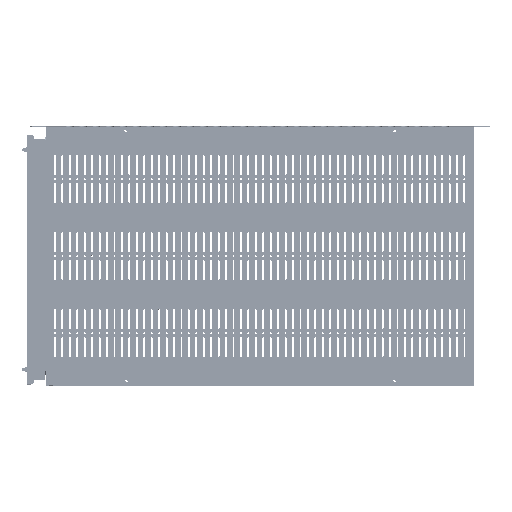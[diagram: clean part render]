
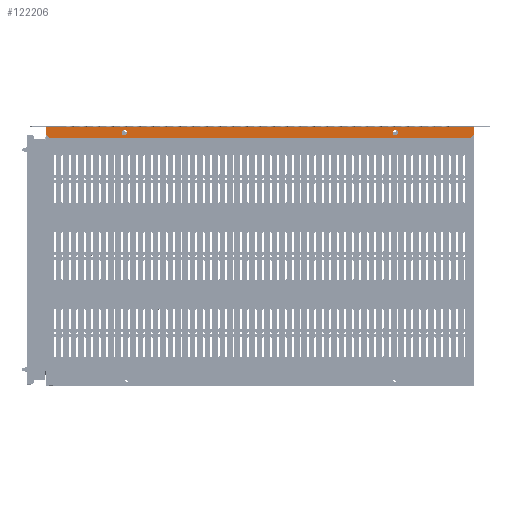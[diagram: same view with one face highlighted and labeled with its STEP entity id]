
A CAD part, top view. The second image highlights one B-rep face of the part: STEP entity #122206.
In plain terms, the highlighted planar face has unit normal (0, 0, 1).
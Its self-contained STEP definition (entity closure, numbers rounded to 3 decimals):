
#2790 = CARTESIAN_POINT ( 'NONE',  ( 287., 1.15, 0. ) ) ;
#2939 = EDGE_CURVE ( 'NONE', #46076, #76286, #125767, .T. ) ;
#3232 = EDGE_LOOP ( 'NONE', ( #54774, #107606 ) ) ;
#6422 = DIRECTION ( 'NONE',  ( -0.707, -0.707, 0. ) ) ;
#6667 = EDGE_CURVE ( 'NONE', #78309, #55650, #75707, .T. ) ;
#7466 = DIRECTION ( 'NONE',  ( -1., 0., 0. ) ) ;
#8405 = FACE_BOUND ( 'NONE', #3232, .T. ) ;
#11672 = VECTOR ( 'NONE', #81668, 1000. ) ;
#12498 = EDGE_CURVE ( 'NONE', #95457, #20290, #15569, .T. ) ;
#13432 = CARTESIAN_POINT ( 'NONE',  ( -182., 8.325, 0. ) ) ;
#14967 = ORIENTED_EDGE ( 'NONE', *, *, #66352, .F. ) ;
#15569 = CIRCLE ( 'NONE', #91003, 3.6 ) ;
#15599 = ORIENTED_EDGE ( 'NONE', *, *, #97734, .T. ) ;
#16406 = CARTESIAN_POINT ( 'NONE',  ( -287., 10.5, 0. ) ) ;
#16939 = DIRECTION ( 'NONE',  ( 0., -1., 0. ) ) ;
#18014 = CARTESIAN_POINT ( 'NONE',  ( 185.6, 8.325, 0. ) ) ;
#20290 = VERTEX_POINT ( 'NONE', #127971 ) ;
#20489 = ORIENTED_EDGE ( 'NONE', *, *, #87849, .F. ) ;
#23381 = DIRECTION ( 'NONE',  ( -1., 0., 0. ) ) ;
#27438 = CARTESIAN_POINT ( 'NONE',  ( -282., 15.5, 0. ) ) ;
#31559 = FACE_BOUND ( 'NONE', #65220, .T. ) ;
#33130 = CIRCLE ( 'NONE', #122948, 3.6 ) ;
#33219 = DIRECTION ( 'NONE',  ( -1., 0., 0. ) ) ;
#40379 = CARTESIAN_POINT ( 'NONE',  ( 178.4, 8.325, 0. ) ) ;
#44193 = PLANE ( 'NONE',  #84135 ) ;
#46076 = VERTEX_POINT ( 'NONE', #18014 ) ;
#46930 = DIRECTION ( 'NONE',  ( 0., 0., -1. ) ) ;
#47468 = EDGE_CURVE ( 'NONE', #76286, #46076, #72282, .T. ) ;
#50997 = CARTESIAN_POINT ( 'NONE',  ( 182., 8.325, 0. ) ) ;
#51107 = VECTOR ( 'NONE', #6422, 1000. ) ;
#51144 = VECTOR ( 'NONE', #52570, 1000. ) ;
#51476 = CARTESIAN_POINT ( 'NONE',  ( -287., 1.15, 0. ) ) ;
#51976 = AXIS2_PLACEMENT_3D ( 'NONE', #126020, #66744, #7466 ) ;
#52570 = DIRECTION ( 'NONE',  ( -1., 0., 0. ) ) ;
#54166 = DIRECTION ( 'NONE',  ( -1., 0., 0. ) ) ;
#54774 = ORIENTED_EDGE ( 'NONE', *, *, #55620, .T. ) ;
#55620 = EDGE_CURVE ( 'NONE', #20290, #95457, #33130, .T. ) ;
#55650 = VERTEX_POINT ( 'NONE', #27438 ) ;
#58017 = ORIENTED_EDGE ( 'NONE', *, *, #62062, .T. ) ;
#58838 = EDGE_CURVE ( 'NONE', #55650, #105413, #103745, .T. ) ;
#60947 = DIRECTION ( 'NONE',  ( -1., 0., 0. ) ) ;
#61273 = VECTOR ( 'NONE', #103239, 1000. ) ;
#62062 = EDGE_CURVE ( 'NONE', #105413, #124668, #120043, .T. ) ;
#65220 = EDGE_LOOP ( 'NONE', ( #72232, #119814 ) ) ;
#66139 = CARTESIAN_POINT ( 'NONE',  ( 282., 15.5, 0. ) ) ;
#66352 = EDGE_CURVE ( 'NONE', #117349, #71562, #106551, .T. ) ;
#66744 = DIRECTION ( 'NONE',  ( 0., 0., -1. ) ) ;
#69656 = EDGE_LOOP ( 'NONE', ( #96614, #110610, #58017, #20489, #14967, #15599 ) ) ;
#71562 = VERTEX_POINT ( 'NONE', #127158 ) ;
#72232 = ORIENTED_EDGE ( 'NONE', *, *, #47468, .T. ) ;
#72282 = CIRCLE ( 'NONE', #122510, 3.6 ) ;
#75707 = LINE ( 'NONE', #92514, #95765 ) ;
#76286 = VERTEX_POINT ( 'NONE', #40379 ) ;
#77452 = LINE ( 'NONE', #2790, #51144 ) ;
#78309 = VERTEX_POINT ( 'NONE', #66139 ) ;
#81668 = DIRECTION ( 'NONE',  ( 0., -1., 0. ) ) ;
#82701 = DIRECTION ( 'NONE',  ( 0., 0., -1. ) ) ;
#83602 = CARTESIAN_POINT ( 'NONE',  ( 287., 15.5, 0. ) ) ;
#84135 = AXIS2_PLACEMENT_3D ( 'NONE', #83602, #113422, #54166 ) ;
#87849 = EDGE_CURVE ( 'NONE', #71562, #124668, #77452, .T. ) ;
#91003 = AXIS2_PLACEMENT_3D ( 'NONE', #13432, #82701, #23381 ) ;
#91559 = CARTESIAN_POINT ( 'NONE',  ( -287., 15.5, 0. ) ) ;
#92514 = CARTESIAN_POINT ( 'NONE',  ( 287., 15.5, 0. ) ) ;
#95457 = VERTEX_POINT ( 'NONE', #103667 ) ;
#95765 = VECTOR ( 'NONE', #33219, 1000. ) ;
#96411 = CARTESIAN_POINT ( 'NONE',  ( -287., 10.5, 0. ) ) ;
#96614 = ORIENTED_EDGE ( 'NONE', *, *, #6667, .T. ) ;
#97734 = EDGE_CURVE ( 'NONE', #117349, #78309, #117024, .T. ) ;
#103239 = DIRECTION ( 'NONE',  ( -0.707, 0.707, 0. ) ) ;
#103438 = VECTOR ( 'NONE', #16939, 1000. ) ;
#103667 = CARTESIAN_POINT ( 'NONE',  ( -178.4, 8.325, 0. ) ) ;
#103745 = LINE ( 'NONE', #16406, #51107 ) ;
#105413 = VERTEX_POINT ( 'NONE', #96411 ) ;
#106063 = CARTESIAN_POINT ( 'NONE',  ( 287., 15.5, 0. ) ) ;
#106203 = CARTESIAN_POINT ( 'NONE',  ( -182., 8.325, 0. ) ) ;
#106551 = LINE ( 'NONE', #106063, #103438 ) ;
#107606 = ORIENTED_EDGE ( 'NONE', *, *, #12498, .T. ) ;
#110556 = FACE_OUTER_BOUND ( 'NONE', #69656, .T. ) ;
#110610 = ORIENTED_EDGE ( 'NONE', *, *, #58838, .T. ) ;
#112768 = CARTESIAN_POINT ( 'NONE',  ( 282., 15.5, 0. ) ) ;
#113422 = DIRECTION ( 'NONE',  ( 0., 0., -1. ) ) ;
#116149 = DIRECTION ( 'NONE',  ( -1., 0., 0. ) ) ;
#117024 = LINE ( 'NONE', #112768, #61273 ) ;
#117349 = VERTEX_POINT ( 'NONE', #126035 ) ;
#119814 = ORIENTED_EDGE ( 'NONE', *, *, #2939, .T. ) ;
#120043 = LINE ( 'NONE', #91559, #11672 ) ;
#120196 = DIRECTION ( 'NONE',  ( 0., 0., -1. ) ) ;
#122206 = ADVANCED_FACE ( 'NONE', ( #31559, #8405, #110556 ), #44193, .F. ) ;
#122510 = AXIS2_PLACEMENT_3D ( 'NONE', #50997, #120196, #60947 ) ;
#122948 = AXIS2_PLACEMENT_3D ( 'NONE', #106203, #46930, #116149 ) ;
#124668 = VERTEX_POINT ( 'NONE', #51476 ) ;
#125767 = CIRCLE ( 'NONE', #51976, 3.6 ) ;
#126020 = CARTESIAN_POINT ( 'NONE',  ( 182., 8.325, 0. ) ) ;
#126035 = CARTESIAN_POINT ( 'NONE',  ( 287., 10.5, 0. ) ) ;
#127158 = CARTESIAN_POINT ( 'NONE',  ( 287., 1.15, 0. ) ) ;
#127971 = CARTESIAN_POINT ( 'NONE',  ( -185.6, 8.325, 0. ) ) ;
